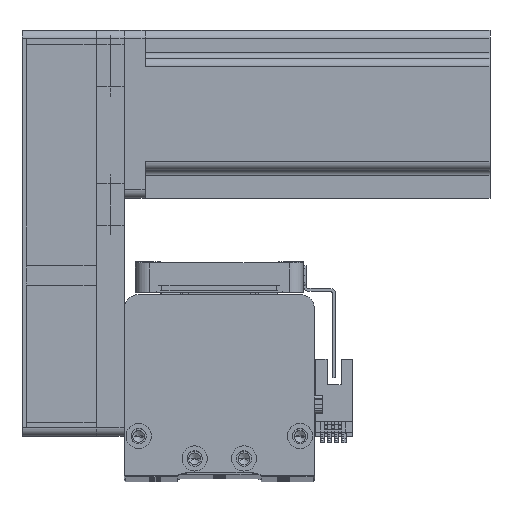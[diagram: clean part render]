
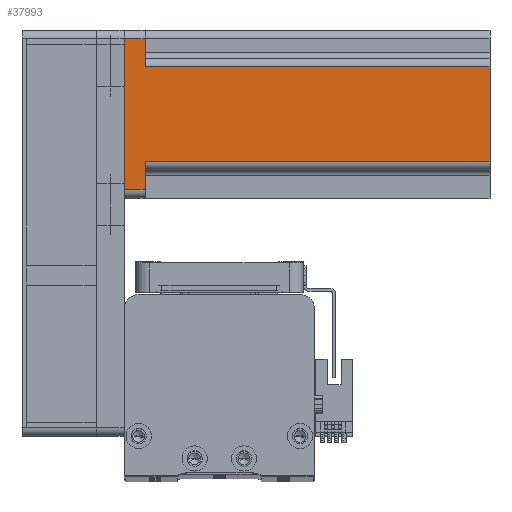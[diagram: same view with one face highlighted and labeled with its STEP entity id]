
A CAD part, top view. The second image highlights one B-rep face of the part: STEP entity #37993.
In plain terms, the highlighted planar face has unit normal (0, 0, 1) as drawn and (0, 1, 0) by its records, which use the part's own axes.
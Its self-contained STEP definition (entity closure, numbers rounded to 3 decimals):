
#796 = CARTESIAN_POINT ( 'NONE',  ( 27., 30., 0. ) ) ;
#991 = EDGE_CURVE ( 'NONE', #7949, #18889, #47224, .T. ) ;
#1101 = EDGE_CURVE ( 'NONE', #48633, #3556, #42491, .T. ) ;
#1458 = VECTOR ( 'NONE', #33781, 1000. ) ;
#2860 = DIRECTION ( 'NONE',  ( -1., 0., 0. ) ) ;
#3556 = VERTEX_POINT ( 'NONE', #796 ) ;
#4118 = CARTESIAN_POINT ( 'NONE',  ( 30., 30., 130.7 ) ) ;
#4708 = ORIENTED_EDGE ( 'NONE', *, *, #26737, .T. ) ;
#4776 = DIRECTION ( 'NONE',  ( 0., 0., 1. ) ) ;
#5034 = EDGE_LOOP ( 'NONE', ( #7186, #7435, #13732, #10157, #41556, #39753, #4708, #5626 ) ) ;
#5626 = ORIENTED_EDGE ( 'NONE', *, *, #16193, .T. ) ;
#6075 = VERTEX_POINT ( 'NONE', #23926 ) ;
#6633 = CARTESIAN_POINT ( 'NONE',  ( 30., 30., 130.7 ) ) ;
#7061 = LINE ( 'NONE', #15643, #44572 ) ;
#7083 = VERTEX_POINT ( 'NONE', #24139 ) ;
#7186 = ORIENTED_EDGE ( 'NONE', *, *, #991, .T. ) ;
#7435 = ORIENTED_EDGE ( 'NONE', *, *, #43467, .T. ) ;
#7906 = DIRECTION ( 'NONE',  ( 1., 0., 0. ) ) ;
#7949 = VERTEX_POINT ( 'NONE', #11476 ) ;
#8284 = VECTOR ( 'NONE', #2860, 1000. ) ;
#8896 = VECTOR ( 'NONE', #24336, 1000. ) ;
#10157 = ORIENTED_EDGE ( 'NONE', *, *, #45838, .T. ) ;
#11476 = CARTESIAN_POINT ( 'NONE',  ( -27., 30., 7.5 ) ) ;
#13732 = ORIENTED_EDGE ( 'NONE', *, *, #16377, .F. ) ;
#14825 = DIRECTION ( 'NONE',  ( 1., 0., 0. ) ) ;
#15643 = CARTESIAN_POINT ( 'NONE',  ( 30., 30., 0. ) ) ;
#16193 = EDGE_CURVE ( 'NONE', #6075, #7949, #19990, .T. ) ;
#16377 = EDGE_CURVE ( 'NONE', #7083, #46628, #18218, .T. ) ;
#18218 = LINE ( 'NONE', #6633, #8284 ) ;
#18889 = VERTEX_POINT ( 'NONE', #23943 ) ;
#18967 = LINE ( 'NONE', #32578, #37687 ) ;
#19518 = LINE ( 'NONE', #31120, #39417 ) ;
#19990 = LINE ( 'NONE', #43011, #8896 ) ;
#20450 = CARTESIAN_POINT ( 'NONE',  ( 27., 30., 130.7 ) ) ;
#20827 = CARTESIAN_POINT ( 'NONE',  ( -20., 30., 7.5 ) ) ;
#21747 = CARTESIAN_POINT ( 'NONE',  ( 27., 30., 7.5 ) ) ;
#22662 = AXIS2_PLACEMENT_3D ( 'NONE', #4118, #30285, #7906 ) ;
#23926 = CARTESIAN_POINT ( 'NONE',  ( -27., 30., 0. ) ) ;
#23943 = CARTESIAN_POINT ( 'NONE',  ( -17., 30., 7.5 ) ) ;
#24139 = CARTESIAN_POINT ( 'NONE',  ( 17., 30., 130.7 ) ) ;
#24336 = DIRECTION ( 'NONE',  ( 0., 0., 1. ) ) ;
#24798 = VECTOR ( 'NONE', #4776, 1000. ) ;
#25971 = LINE ( 'NONE', #30952, #24798 ) ;
#26737 = EDGE_CURVE ( 'NONE', #3556, #6075, #7061, .T. ) ;
#26915 = DIRECTION ( 'NONE',  ( -1., 0., 0. ) ) ;
#27258 = VECTOR ( 'NONE', #14825, 1000. ) ;
#30285 = DIRECTION ( 'NONE',  ( 0., -1., 0. ) ) ;
#30952 = CARTESIAN_POINT ( 'NONE',  ( -17., 30., 130.7 ) ) ;
#31120 = CARTESIAN_POINT ( 'NONE',  ( 20., 30., 7.5 ) ) ;
#32578 = CARTESIAN_POINT ( 'NONE',  ( 17., 30., 130.7 ) ) ;
#33781 = DIRECTION ( 'NONE',  ( 0., 0., -1. ) ) ;
#34733 = DIRECTION ( 'NONE',  ( -1., 0., 0. ) ) ;
#34974 = VERTEX_POINT ( 'NONE', #42200 ) ;
#37211 = CARTESIAN_POINT ( 'NONE',  ( -17., 30., 130.7 ) ) ;
#37658 = PLANE ( 'NONE',  #22662 ) ;
#37687 = VECTOR ( 'NONE', #43703, 1000. ) ;
#37993 = ADVANCED_FACE ( 'NONE', ( #48088 ), #37658, .F. ) ;
#39417 = VECTOR ( 'NONE', #34733, 1000. ) ;
#39753 = ORIENTED_EDGE ( 'NONE', *, *, #1101, .T. ) ;
#41556 = ORIENTED_EDGE ( 'NONE', *, *, #46878, .F. ) ;
#42200 = CARTESIAN_POINT ( 'NONE',  ( 17., 30., 7.5 ) ) ;
#42491 = LINE ( 'NONE', #20450, #1458 ) ;
#43011 = CARTESIAN_POINT ( 'NONE',  ( -27., 30., 130.7 ) ) ;
#43467 = EDGE_CURVE ( 'NONE', #18889, #46628, #25971, .T. ) ;
#43703 = DIRECTION ( 'NONE',  ( 0., 0., -1. ) ) ;
#44572 = VECTOR ( 'NONE', #26915, 1000. ) ;
#45838 = EDGE_CURVE ( 'NONE', #7083, #34974, #18967, .T. ) ;
#46628 = VERTEX_POINT ( 'NONE', #37211 ) ;
#46878 = EDGE_CURVE ( 'NONE', #48633, #34974, #19518, .T. ) ;
#47224 = LINE ( 'NONE', #20827, #27258 ) ;
#48088 = FACE_OUTER_BOUND ( 'NONE', #5034, .T. ) ;
#48633 = VERTEX_POINT ( 'NONE', #21747 ) ;
